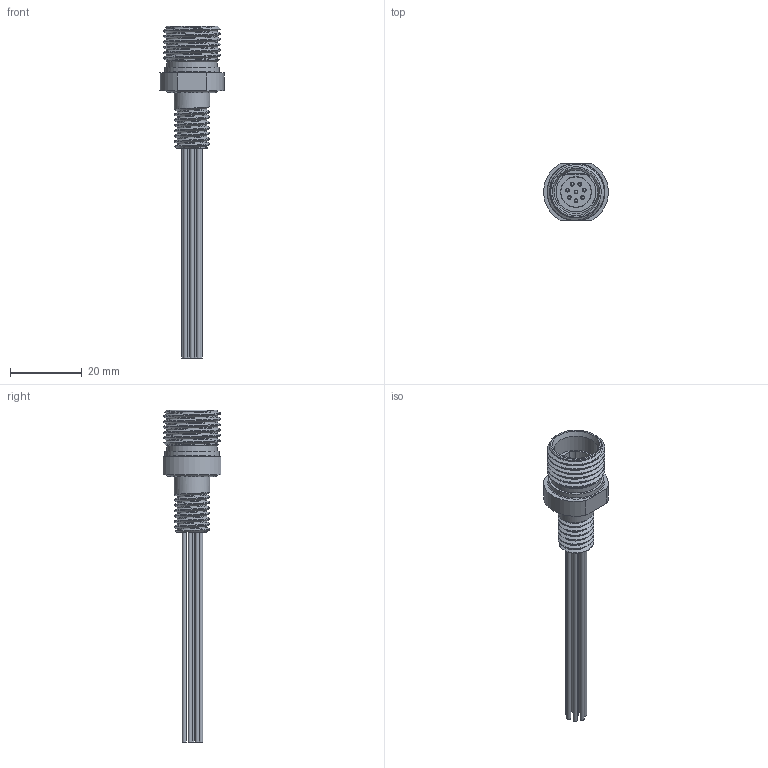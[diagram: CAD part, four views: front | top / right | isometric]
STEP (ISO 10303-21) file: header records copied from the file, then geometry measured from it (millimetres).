
FILE_DESCRIPTION (( 'STEP AP203' ), '1' );
FILE_NAME ('COB-1180-R1 Bulkhead 8 Pin.STEP', '2023-04-27T18:42:30', ( '' ), ( '' ), 'SwSTEP 2.0', 'SolidWorks 2022', '' );
FILE_SCHEMA (( 'CONFIG_CONTROL_DESIGN' ));
Length unit declared in the file: millimetre
Products named in the file (1): COB-1180-R1 Bulkhead 8 Pin
Bounding box: 17.94 x 16 x 92.25 mm (x, y, z)
Volume: 3483.2 mm3; surface area: 4872.9 mm2
Topology: 2 solids, 2 shells, 89 faces, 208 edges, 129 vertices
Faces by surface type: cylinder 37, plane 22, torus 10, sphere 8, cone 6, bspline 6
Full cylindrical faces by diameter (mm): 0.762 x8, 1.13 x8, 8.4 x1, 9.95 x7, 10.7 x1, 11.608 x1, 12.1 x1, 14 x1, 15.1 x1, 15.2 x1
Entity records: 6002 total; most frequent: CARTESIAN_POINT 4482, DIRECTION 309, ORIENTED_EDGE 220, AXIS2_PLACEMENT_3D 148, EDGE_LOOP 143, FACE_OUTER_BOUND 114, EDGE_CURVE 110, VERTEX_POINT 93
